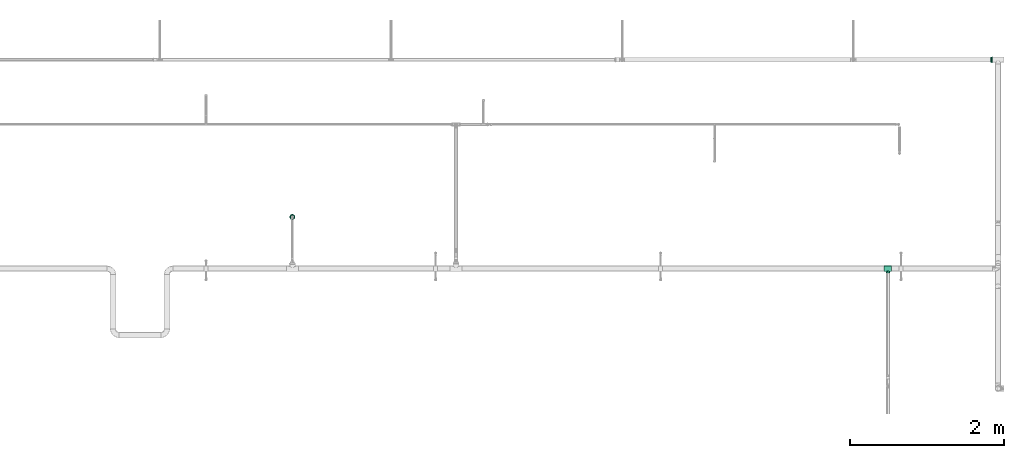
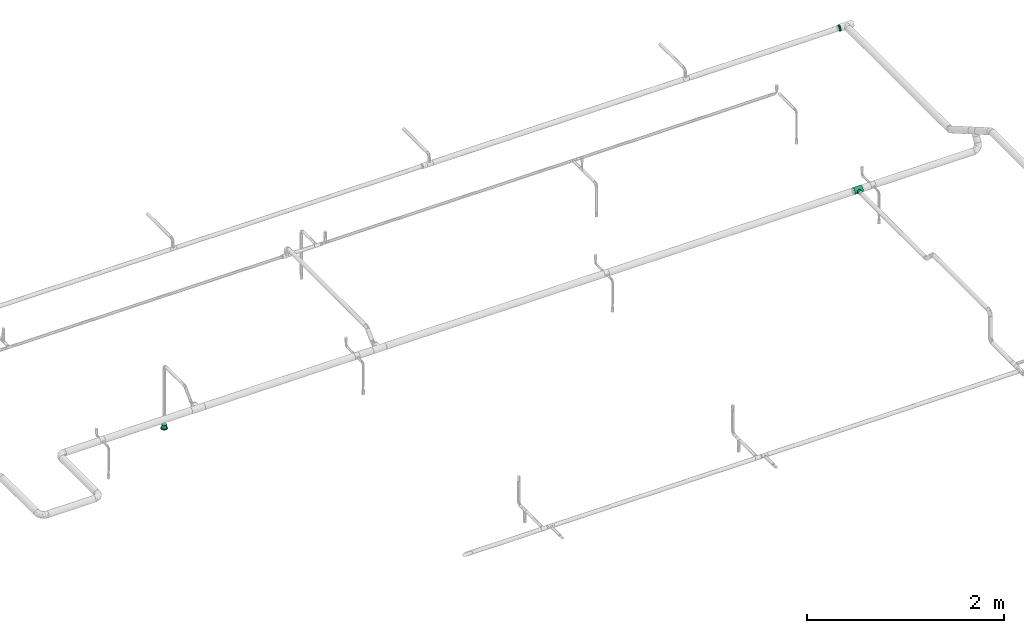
# One storey, part 48 of 51: 2 flow fittings, 1 flow terminal.
"""IFC2X3 building model written with IfcOpenShell, lengths in millimetres."""

from ifc_helpers import new_model, entity, si_unit, converted_unit, derived_unit, direction, frame, origin_with_axes, place, context, subcontext, project, spatial, open_shell, surface_model, source, transform, mapped, type_object, element, save


model = new_model("IFC2X3")

# Units and contexts
model_context = context("Model", 3, precision=0.01, world=frame((0.0, 4.29681676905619e-09, 0.0)), true_north=direction((4.01073788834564e-13, 1.0)))
plan_context = context("Plan", 3, precision=0.01, world=frame((0.0, 4.29681676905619e-09, 0.0)), true_north=direction((4.01073788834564e-13, 1.0)))
body_context = subcontext(model_context, "Body", "Model", "MODEL_VIEW")
ifc_project = project(units=[converted_unit("PLANEANGLEUNIT", "DEGREE", entity("IfcPositiveLengthMeasure", 0.0174532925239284), si_unit("PLANEANGLEUNIT", "RADIAN"), dimensions=[0, 0, 0, 0, 0, 0, 0]), si_unit("AREAUNIT", "SQUARE_METRE"), si_unit("LENGTHUNIT", "METRE", prefix="MILLI"), si_unit("MASSUNIT", "GRAM", prefix="KILO"), si_unit("POWERUNIT", "WATT"), si_unit("PRESSUREUNIT", "PASCAL"), si_unit("FORCEUNIT", "NEWTON", prefix="KILO"), si_unit("ELECTRICVOLTAGEUNIT", "VOLT"), si_unit("ELECTRICCURRENTUNIT", "AMPERE"), si_unit("THERMODYNAMICTEMPERATUREUNIT", "DEGREE_CELSIUS"), si_unit("TIMEUNIT", "SECOND"), si_unit("VOLUMEUNIT", "CUBIC_METRE"), derived_unit("LINEARVELOCITYUNIT", [(si_unit("LENGTHUNIT", "METRE"), 1), (si_unit("TIMEUNIT", "SECOND"), -1)]), derived_unit("VOLUMETRICFLOWRATEUNIT", [(si_unit("VOLUMEUNIT", "CUBIC_METRE"), 1), (si_unit("TIMEUNIT", "SECOND"), -1)]), derived_unit("THERMALTRANSMITTANCEUNIT", [(si_unit("POWERUNIT", "WATT"), 1), (si_unit("THERMODYNAMICTEMPERATUREUNIT", "KELVIN"), -1), (si_unit("AREAUNIT", "SQUARE_METRE"), -1)]), derived_unit("SOUNDPRESSUREUNIT", [(si_unit("PRESSUREUNIT", "PASCAL"), 1)])], contexts=[model_context, plan_context])

# Site, building, storey
site_placement = place(None, frame((0.0, -4.29681676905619e-09, 0.0), z_axis=(0.0, 0.0, 1.0), x_axis=(1.0, 0.0, 0.0)))
site = spatial("IfcSite", under=ifc_project, at=site_placement, Name="ENGM", CompositionType="ELEMENT")
building_placement = place(site_placement, frame((0.0, 4.29681676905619e-09, 0.0), z_axis=(0.0, 0.0, 1.0), x_axis=(1.0, 0.0, 0.0)))
building = spatial("IfcBuilding", under=site, at=building_placement, Name="TH", CompositionType="ELEMENT")
storey_placement = place(building_placement, frame((0.0, 0.0, 210200.0), z_axis=(0.0, 0.0, 1.0), x_axis=(1.0, 0.0, 0.0)))
storey = spatial("IfcBuildingStorey", under=building, at=storey_placement, Name="Nivå F - 0,7 m", CompositionType="ELEMENT", Elevation=210200.0)

# Flow fittings
pipe_fitting_type_1 = type_object("IfcPipeFittingType", Name="magi_pipe_fe_reducer_centric_short_NOR", PredefinedType="TRANSITION")
shared_shape_1 = source(origin_with_axes(), body_context, "Body", "SurfaceModel", [
    surface_model("IfcShellBasedSurfaceModel", [(17.8, 7.81634, -29.17096), (17.8, 15.1, -26.15397), (17.8, 21.35462, -21.35462), (17.8, 30.2, 0.0), (17.8, 26.15397, -15.1), (17.8, 29.17096, -7.81634), (17.8, -15.1, -26.15397), (17.8, -29.17096, 7.81634), (17.8, 0.0, -30.2), (17.8, -7.81634, -29.17096), (17.8, -21.35462, -21.35462), (17.8, -29.17096, -7.81634), (17.8, -26.15397, -15.1), (17.8, 29.17096, 7.81634), (17.8, 26.15397, 15.1), (17.8, 21.35462, 21.35462), (17.8, -21.35462, 21.35462), (17.8, 15.1, 26.15397), (17.8, 7.81634, 29.17096), (17.8, 0.0, 30.2), (17.8, -26.15397, 15.1), (17.8, -30.2, 0.0), (17.8, -7.81634, 29.17096), (17.8, -15.1, 26.15397), (15.8, 0.0, 30.2), (15.8, 7.81634, 29.17096), (15.8, 15.1, 26.15397), (15.8, 21.35462, 21.35462), (15.8, 26.15397, 15.1), (15.8, 29.17096, 7.81634), (15.8, -29.17096, 7.81634), (15.8, 30.2, 0.0), (15.8, -7.81634, 29.17096), (15.8, -21.35462, 21.35462), (15.8, -15.1, 26.15397), (15.8, -26.15397, 15.1), (15.8, -30.2, 0.0), (15.8, 29.17096, -7.81634), (15.8, 26.15397, -15.1), (15.8, 21.35462, -21.35462), (15.8, 15.1, -26.15397), (15.8, 7.81634, -29.17096), (15.8, -15.1, -26.15397), (15.8, -29.17096, -7.81634), (15.8, -21.35462, -21.35462), (15.8, -26.15397, -15.1), (15.8, 0.0, -30.2), (15.8, -7.81634, -29.17096), (-2.0, 9.86101, 36.80177), (-2.0, -38.1, 0.0), (-2.0, 0.0, 38.1), (-2.0, 26.94077, 26.94077), (-2.0, 19.05, 32.99557), (-2.0, 32.99557, 19.05), (-2.0, 36.80177, 9.86101), (-2.0, -9.86101, 36.80177), (-2.0, -26.94077, 26.94077), (-2.0, -19.05, 32.99557), (-2.0, -32.99557, 19.05), (-2.0, -36.80177, 9.86101), (-2.0, 36.80177, -9.86101), (-2.0, -32.99557, -19.05), (-2.0, 9.86101, -36.80177), (-2.0, 32.99557, -19.05), (-2.0, 26.94077, -26.94077), (-2.0, 19.05, -32.99557), (-2.0, -26.94077, -26.94077), (-2.0, -36.80177, -9.86101), (-2.0, -19.05, -32.99557), (-2.0, 0.0, -38.1), (-2.0, -9.86101, -36.80177), (-2.0, 38.1, 0.0), (0.0, 9.86101, -36.80177), (0.0, 19.05, -32.99557), (0.0, 26.94077, -26.94077), (0.0, 36.80177, -9.86101), (0.0, -26.94077, -26.94077), (0.0, 32.99557, -19.05), (0.0, -38.1, 0.0), (0.0, 0.0, -38.1), (0.0, -19.05, -32.99557), (0.0, -9.86101, -36.80177), (0.0, -32.99557, -19.05), (0.0, -36.80177, -9.86101), (0.0, 38.1, 0.0), (0.0, 36.80177, 9.86101), (0.0, 32.99557, 19.05), (0.0, 26.94077, 26.94077), (0.0, 0.0, 38.1), (0.0, 9.86101, 36.80177), (0.0, 19.05, 32.99557), (0.0, -9.86101, 36.80177), (0.0, -32.99557, 19.05), (0.0, -36.80177, 9.86101), (0.0, -26.94077, 26.94077), (0.0, -19.05, 32.99557), (15.8, -9.33231, 28.72191), (15.8, -24.43231, 17.75111), (15.8, 9.33231, 28.72191), (15.8, 24.43231, 17.75111), (15.8, -9.33231, -28.72191), (15.8, -24.43231, -17.75111), (15.8, 9.33231, -28.72191), (15.8, 24.43231, -17.75111), (15.8, 27.31616, -8.87556), (15.8, 16.88231, -23.23651), (0.0, 35.64327, -9.16863), (0.0, 26.02278, -26.02278), (0.0, -35.64327, -9.16863), (15.8, -16.88231, -23.23651), (15.8, -27.31616, -8.87556), (0.0, -26.02278, -26.02278), (15.8, 0.0, -28.72191), (0.0, 9.525, -35.54778), (0.0, -9.525, -35.54778), (15.8, -27.31616, 8.87556), (15.8, -16.88231, 23.23651), (0.0, -35.64327, 9.16863), (0.0, -26.02278, 26.02278), (0.0, 35.64327, 9.16863), (15.8, 16.88231, 23.23651), (15.8, 27.31616, 8.87556), (0.0, 26.02278, 26.02278), (15.8, 0.0, 28.72191), (0.0, -9.525, 35.54778), (0.0, 9.525, 35.54778)], [open_shell([[[0, 1, 2]], [[0, 2, 3]], [[4, 5, 3]], [[4, 3, 2]], [[6, 0, 7]], [[8, 6, 9]], [[8, 0, 6]], [[10, 11, 12]], [[11, 10, 6]], [[6, 7, 11]], [[7, 0, 3]], [[13, 14, 15]], [[3, 15, 16]], [[17, 18, 19]], [[16, 15, 17]], [[16, 17, 19]], [[7, 16, 20]], [[21, 11, 7]], [[16, 22, 23]], [[7, 3, 16]], [[22, 16, 19]], [[13, 15, 3]], [[24, 25, 26]], [[24, 26, 27]], [[27, 28, 29]], [[24, 27, 30]], [[31, 30, 27]], [[32, 33, 34]], [[32, 24, 33]], [[33, 30, 35]], [[24, 30, 33]], [[30, 31, 36]], [[31, 27, 29]], [[31, 37, 38]], [[31, 38, 39]], [[39, 40, 41]], [[39, 41, 31]], [[41, 42, 36]], [[43, 44, 45]], [[44, 43, 42]], [[42, 46, 47]], [[43, 36, 42]], [[41, 46, 42]], [[36, 31, 41]], [[43, 11, 36]], [[45, 12, 43]], [[6, 44, 42]], [[45, 44, 10]], [[9, 42, 47]], [[43, 12, 11]], [[11, 21, 36]], [[9, 6, 42]], [[10, 44, 6]], [[10, 12, 45]], [[8, 9, 47]], [[47, 46, 8]], [[41, 0, 46]], [[40, 1, 41]], [[4, 39, 38]], [[40, 39, 2]], [[5, 38, 37]], [[40, 2, 1]], [[1, 0, 41]], [[3, 5, 37]], [[4, 38, 5]], [[4, 2, 39]], [[31, 3, 37]], [[46, 0, 8]], [[29, 13, 31]], [[28, 14, 29]], [[17, 27, 26]], [[28, 27, 15]], [[18, 26, 25]], [[29, 14, 13]], [[13, 3, 31]], [[18, 17, 26]], [[15, 27, 17]], [[15, 14, 28]], [[19, 18, 25]], [[25, 24, 19]], [[32, 22, 24]], [[34, 23, 32]], [[20, 33, 35]], [[34, 33, 16]], [[7, 35, 30]], [[34, 16, 23]], [[23, 22, 32]], [[21, 7, 30]], [[20, 35, 7]], [[20, 16, 33]], [[36, 21, 30]], [[24, 22, 19]], [[48, 49, 50]], [[51, 48, 52]], [[51, 53, 54]], [[51, 54, 48]], [[49, 48, 54]], [[55, 56, 57]], [[56, 55, 58]], [[58, 49, 59]], [[49, 58, 55]], [[55, 50, 49]], [[54, 60, 49]], [[61, 49, 60]], [[62, 60, 63]], [[64, 65, 62]], [[64, 62, 63]], [[61, 60, 62]], [[62, 66, 61]], [[67, 49, 61]], [[68, 69, 70]], [[68, 66, 62]], [[68, 62, 69]], [[54, 71, 60]], [[72, 73, 74]], [[72, 74, 75]], [[72, 75, 76]], [[75, 74, 77]], [[76, 75, 78]], [[79, 80, 81]], [[79, 72, 80]], [[76, 80, 72]], [[76, 78, 82]], [[82, 78, 83]], [[75, 84, 85]], [[85, 86, 87]], [[85, 87, 88]], [[89, 88, 87]], [[89, 87, 90]], [[85, 88, 91]], [[78, 92, 93]], [[92, 78, 91]], [[94, 91, 95]], [[91, 94, 92]], [[78, 85, 91]], [[85, 78, 75]], [[67, 83, 49]], [[61, 82, 67]], [[80, 66, 68]], [[61, 66, 76]], [[81, 68, 70]], [[67, 82, 83]], [[83, 78, 49]], [[81, 80, 68]], [[76, 66, 80]], [[76, 82, 61]], [[79, 81, 70]], [[70, 69, 79]], [[62, 72, 69]], [[65, 73, 62]], [[77, 64, 63]], [[65, 64, 74]], [[75, 63, 60]], [[65, 74, 73]], [[73, 72, 62]], [[84, 75, 60]], [[77, 63, 75]], [[77, 74, 64]], [[71, 84, 60]], [[69, 72, 79]], [[54, 85, 71]], [[53, 86, 54]], [[90, 51, 52]], [[53, 51, 87]], [[89, 52, 48]], [[54, 86, 85]], [[85, 84, 71]], [[89, 90, 52]], [[87, 51, 90]], [[87, 86, 53]], [[88, 89, 48]], [[48, 50, 88]], [[55, 91, 50]], [[57, 95, 55]], [[92, 56, 58]], [[57, 56, 94]], [[93, 58, 59]], [[57, 94, 95]], [[95, 91, 55]], [[78, 93, 59]], [[92, 58, 93]], [[92, 94, 56]], [[49, 78, 59]], [[50, 91, 88]], [[96, 97, 98]], [[98, 31, 99]], [[31, 98, 97]], [[97, 100, 31]], [[100, 97, 101]], [[102, 103, 31]], [[31, 100, 102]], [[97, 36, 101]], [[88, 90, 86]], [[88, 86, 92]], [[88, 92, 95]], [[92, 86, 78]], [[86, 73, 78]], [[77, 73, 86]], [[73, 79, 78]], [[78, 80, 82]], [[78, 79, 80]], [[84, 77, 86]], [[77, 104, 103]], [[105, 102, 73]], [[31, 106, 84]], [[107, 103, 105]], [[36, 78, 108]], [[106, 31, 104]], [[80, 100, 109]], [[105, 73, 107]], [[77, 103, 107]], [[77, 106, 104]], [[82, 110, 108]], [[108, 110, 36]], [[101, 82, 111]], [[112, 113, 102]], [[100, 80, 114]], [[113, 112, 79]], [[109, 101, 111]], [[101, 110, 82]], [[80, 109, 111]], [[100, 114, 112]], [[112, 114, 79]], [[113, 73, 102]], [[92, 115, 97]], [[116, 96, 95]], [[36, 117, 78]], [[118, 97, 116]], [[31, 84, 119]], [[117, 36, 115]], [[90, 98, 120]], [[116, 95, 118]], [[92, 97, 118]], [[92, 117, 115]], [[86, 121, 119]], [[119, 121, 31]], [[99, 86, 122]], [[123, 124, 96]], [[98, 90, 125]], [[124, 123, 88]], [[120, 99, 122]], [[99, 121, 86]], [[90, 120, 122]], [[98, 125, 123]], [[123, 125, 88]], [[124, 95, 96]]])]),
])
flow_fitting_1_placement = place(storey_placement, frame((910303.67531, 487040.10129, 2819.99997), z_axis=(0.0, 0.0, 1.0), x_axis=(-1.0, 0.0, 0.0)))
element("IfcFlowFitting", 1, at=flow_fitting_1_placement, inside=storey, type_object=pipe_fitting_type_1, Name="magi_pipe_fe_reducer_centric_short_NOR", context=body_context, shape_type="MappedRepresentation", body=[
    mapped(shared_shape_1, transform((0.0, 0.0, 0.0), scale=1.0)),
])
pipe_fitting_type_2 = type_object("IfcPipeFittingType", Name="magi_pipe_fe_tee_centric_90_NOR", PredefinedType="JUNCTION")
shared_shape_2 = source(origin_with_axes(), body_context, "Body", "SurfaceModel", [
    surface_model("IfcShellBasedSurfaceModel", [(-48.4, 9.86101, -36.80177), (-48.4, 0.0, -38.1), (-48.4, 36.80177, -9.86101), (-48.4, 19.05, -32.99557), (-48.4, 32.99557, -19.05), (-48.4, 26.94077, -26.94077), (-48.4, -38.1, 0.0), (-48.4, -19.05, -32.99557), (-48.4, -26.94077, -26.94077), (-48.4, -9.86101, -36.80177), (-48.4, -32.99557, -19.05), (-48.4, -36.80177, -9.86101), (-48.4, 38.1, 0.0), (-48.4, 32.99557, 19.05), (-48.4, 36.80177, 9.86101), (-48.4, -36.80177, 9.86101), (-48.4, 19.05, 32.99557), (-48.4, 26.94077, 26.94077), (-48.4, 9.86101, 36.80177), (-48.4, 0.0, 38.1), (-48.4, -26.94077, 26.94077), (-48.4, -32.99557, 19.05), (-48.4, -9.86101, 36.80177), (-48.4, -19.05, 32.99557), (48.4, 0.0, -38.1), (48.4, 9.86101, -36.80177), (48.4, 19.05, -32.99557), (48.4, 26.94077, -26.94077), (48.4, 32.99557, -19.05), (48.4, 36.80177, -9.86101), (48.4, -26.94077, -26.94077), (48.4, -38.1, 0.0), (48.4, -9.86101, -36.80177), (48.4, -19.05, -32.99557), (48.4, -32.99557, -19.05), (48.4, -36.80177, -9.86101), (48.4, 36.80177, 9.86101), (48.4, 32.99557, 19.05), (48.4, 19.05, 32.99557), (48.4, 0.0, 38.1), (48.4, 26.94077, 26.94077), (48.4, 9.86101, 36.80177), (48.4, -32.99557, 19.05), (48.4, -26.94077, 26.94077), (48.4, -36.80177, 9.86101), (48.4, -19.05, 32.99557), (48.4, -9.86101, 36.80177), (48.4, 38.1, 0.0), (22.67163, -37.14799, 8.46387), (24.2, -38.1, 0.0), (18.4612, -34.73882, 15.64686), (12.20123, -31.85656, 20.89904), (4.31503, -29.74205, 23.81219), (48.4, -34.89867, 14.4555), (-18.46661, -34.7417, 15.64047), (-48.4, -34.89867, 14.4555), (-24.2, -38.1, 0.0), (-22.67247, -37.1485, 8.46164), (-12.20341, -31.85739, 20.89777), (-4.32227, -29.7431, 23.81088), (12.20123, -31.85656, -20.89904), (-18.46661, -34.7417, -15.64047), (-48.4, -34.89867, -14.4555), (4.31503, -29.74205, -23.81219), (18.4612, -34.73882, -15.64686), (22.67163, -37.14799, -8.46387), (48.4, -34.89867, -14.4555), (-4.32227, -29.7431, -23.81088), (-12.20341, -31.85739, -20.89777), (-22.67247, -37.1485, -8.46164), (0.0, -57.15, -24.2), (6.26342, -57.15, -23.37541), (12.1, -57.15, -20.95781), (12.1, -57.15, 20.95781), (17.11198, -57.15, -17.11198), (20.95781, -57.15, -12.1), (23.37541, -57.15, -6.26342), (-12.1, -57.15, -20.95781), (-20.95781, -57.15, -12.1), (-17.11198, -57.15, -17.11198), (-6.26342, -57.15, -23.37541), (-23.37541, -57.15, -6.26342), (-24.2, -57.15, 0.0), (24.2, -57.15, 0.0), (23.37541, -57.15, 6.26342), (20.95781, -57.15, 12.1), (-23.37541, -57.15, 6.26342), (17.11198, -57.15, 17.11198), (6.26342, -57.15, 23.37541), (-17.11198, -57.15, 17.11198), (-20.95781, -57.15, 12.1), (-12.1, -57.15, 20.95781), (0.0, -57.15, 24.2), (-6.26342, -57.15, 23.37541), (-23.43623, -37.62425, 4.23082), (-0.00362, -29.74257, 23.81153), (8.25813, -30.7993, 22.35562), (23.43582, -37.62399, 4.23193), (23.43582, -37.62399, -4.23193), (-23.43623, -37.62425, -4.23082), (8.25813, -30.7993, -22.35562), (-0.00362, -29.74257, -23.81153)], [open_shell([[[0, 1, 2]], [[3, 0, 2]], [[2, 4, 5]], [[3, 2, 5]], [[6, 2, 1]], [[7, 8, 9]], [[8, 1, 9]], [[10, 11, 8]], [[6, 8, 11]], [[8, 6, 1]], [[6, 12, 2]], [[13, 14, 12]], [[13, 12, 15]], [[16, 13, 15]], [[17, 13, 16]], [[18, 16, 19]], [[20, 19, 21]], [[16, 15, 21]], [[22, 19, 23]], [[20, 23, 19]], [[21, 19, 16]], [[6, 15, 12]], [[24, 25, 26]], [[24, 26, 27]], [[27, 28, 29]], [[24, 27, 30]], [[31, 27, 29]], [[32, 30, 33]], [[32, 24, 30]], [[34, 31, 35]], [[31, 34, 30]], [[27, 31, 30]], [[29, 36, 31]], [[36, 37, 31]], [[31, 37, 38]], [[38, 39, 31]], [[38, 37, 40]], [[39, 38, 41]], [[42, 39, 43]], [[44, 31, 42]], [[45, 39, 46]], [[39, 45, 43]], [[39, 42, 31]], [[36, 29, 47]], [[31, 44, 48]], [[48, 49, 31]], [[44, 50, 48]], [[42, 43, 51]], [[51, 50, 42]], [[52, 51, 43]], [[43, 20, 52]], [[42, 50, 53]], [[54, 21, 55]], [[56, 57, 6]], [[15, 6, 57]], [[57, 54, 15]], [[58, 59, 20]], [[58, 21, 54]], [[21, 58, 20]], [[54, 55, 15]], [[59, 52, 20]], [[50, 44, 53]], [[43, 23, 20]], [[19, 46, 39]], [[22, 45, 46]], [[18, 39, 41]], [[37, 36, 14]], [[17, 38, 40]], [[13, 40, 37]], [[41, 38, 16]], [[12, 36, 47]], [[23, 45, 22]], [[22, 46, 19]], [[18, 19, 39]], [[41, 16, 18]], [[16, 38, 17]], [[13, 17, 40]], [[14, 13, 37]], [[36, 12, 14]], [[45, 23, 43]], [[12, 47, 29]], [[28, 27, 4]], [[2, 29, 28]], [[24, 32, 9]], [[0, 26, 25]], [[1, 25, 24]], [[26, 3, 27]], [[7, 32, 33]], [[4, 27, 5]], [[12, 29, 2]], [[2, 28, 4]], [[5, 27, 3]], [[26, 0, 3]], [[1, 0, 25]], [[9, 1, 24]], [[32, 7, 9]], [[33, 8, 7]], [[30, 34, 60]], [[61, 11, 62]], [[60, 63, 30]], [[34, 64, 60]], [[30, 63, 8]], [[35, 31, 65]], [[65, 64, 35]], [[49, 65, 31]], [[35, 64, 66]], [[67, 68, 8]], [[64, 34, 66]], [[10, 8, 68]], [[68, 61, 10]], [[67, 8, 63]], [[61, 69, 11]], [[69, 6, 11]], [[6, 69, 56]], [[61, 62, 10]], [[30, 8, 33]], [[70, 71, 72]], [[73, 70, 72]], [[74, 75, 76]], [[74, 76, 72]], [[73, 77, 70]], [[77, 78, 79]], [[77, 80, 70]], [[77, 81, 78]], [[81, 77, 82]], [[77, 73, 82]], [[83, 72, 76]], [[83, 84, 85]], [[83, 85, 73]], [[73, 86, 82]], [[73, 85, 87]], [[86, 73, 88]], [[86, 89, 90]], [[86, 88, 89]], [[91, 92, 93]], [[92, 91, 89]], [[88, 92, 89]], [[73, 72, 83]], [[86, 94, 82]], [[54, 90, 89]], [[86, 90, 57]], [[89, 91, 58]], [[94, 56, 82]], [[57, 90, 54]], [[58, 93, 59]], [[58, 54, 89]], [[92, 52, 95]], [[58, 91, 93]], [[73, 96, 88]], [[97, 83, 49]], [[86, 57, 94]], [[88, 52, 92]], [[48, 85, 84]], [[97, 48, 84]], [[85, 50, 87]], [[92, 59, 93]], [[96, 52, 88]], [[73, 51, 96]], [[73, 87, 51]], [[51, 87, 50]], [[50, 85, 48]], [[83, 97, 84]], [[95, 59, 92]], [[76, 98, 83]], [[64, 75, 74]], [[99, 69, 81]], [[76, 75, 65]], [[74, 72, 60]], [[98, 49, 83]], [[65, 75, 64]], [[71, 63, 100]], [[60, 64, 74]], [[70, 67, 101]], [[70, 63, 71]], [[100, 60, 72]], [[100, 72, 71]], [[76, 65, 98]], [[68, 77, 79]], [[68, 80, 77]], [[69, 78, 81]], [[79, 78, 61]], [[99, 82, 56]], [[67, 70, 80]], [[80, 68, 67]], [[101, 63, 70]], [[68, 79, 61]], [[61, 78, 69]], [[82, 99, 81]]])]),
])
flow_fitting_2_placement = place(storey_placement, frame((908949.82472, 484329.45519, 2933.0), z_axis=(0.0, 0.0, -1.0), x_axis=(-1.0, 0.0, 0.0)))
element("IfcFlowFitting", 2, at=flow_fitting_2_placement, inside=storey, type_object=pipe_fitting_type_2, Name="magi_pipe_fe_tee_centric_90_NOR", context=body_context, shape_type="MappedRepresentation", body=[
    mapped(shared_shape_2, transform((0.0, 0.0, 0.0), scale=1.0)),
])

# Flow terminal
fire_suppression_terminal_type = type_object("IfcFireSuppressionTerminalType", Name="CC-15-K80-68DGR-STD-SKJULT I HIMLING", PredefinedType="NOTDEFINED")
shared_shape_3 = source(origin_with_axes(), body_context, "Body", "SurfaceModel", [
    surface_model("IfcShellBasedSurfaceModel", [(-26.0, 0.0, -46.0), (-25.11407, -6.72929, -46.0), (-25.11407, -6.72929, 0.0), (6.72929, -25.11407, 0.0), (6.72929, -25.11407, -46.0), (13.0, -22.51666, -46.0), (22.51666, -13.0, -46.0), (22.51666, -13.0, 0.0), (18.38478, -18.38478, 0.0), (25.11407, -6.72929, 0.0), (25.11407, -6.72929, -46.0), (26.0, 0.0, -46.0), (26.0, 0.0, 0.0), (25.11407, 6.72929, -46.0), (22.51666, 13.0, 0.0), (25.11407, 6.72929, 0.0), (13.0, 22.51666, -46.0), (6.72929, 25.11407, -46.0), (6.72929, 25.11407, 0.0), (18.38478, 18.38478, 0.0), (22.51666, 13.0, -46.0), (-25.11407, 6.72929, 0.0), (-25.11407, 6.72929, -46.0), (-26.16295, -26.16295, 5.0), (35.73926, -9.57631, 5.0), (37.0, 0.0, 5.0), (13.0, 22.51666, 0.0), (-26.0, 0.0, 0.0), (-13.0, 22.51666, 0.0), (-6.72929, 25.11407, 0.0), (0.0, 26.0, 0.0), (-22.51666, 13.0, 0.0), (-18.38478, 18.38478, 0.0), (13.0, -22.51666, 0.0), (0.0, -26.0, 0.0), (-22.51666, -13.0, 0.0), (-18.38478, -18.38478, 0.0), (-13.0, -22.51666, 0.0), (-6.72929, -25.11407, 0.0), (0.0, -26.0, -46.0), (18.38478, -18.38478, -46.0), (-18.38478, -18.38478, -46.0), (-13.0, -22.51666, -46.0), (-6.72929, -25.11407, -46.0), (-22.51666, -13.0, -46.0), (18.38478, 18.38478, -46.0), (-22.51666, 13.0, -46.0), (-18.38478, 18.38478, -46.0), (-13.0, 22.51666, -46.0), (-6.72929, 25.11407, -46.0), (0.0, 26.0, -46.0), (18.5, 32.04294, 5.0), (9.57631, 35.73926, 5.0), (35.73926, 9.57631, 5.0), (26.16295, 26.16295, 5.0), (32.04294, 18.5, 5.0), (-35.73926, -9.57631, 5.0), (-18.5, 32.04294, 5.0), (-9.57631, 35.73926, 5.0), (0.0, 37.0, 5.0), (-32.04294, 18.5, 5.0), (-35.73926, 9.57631, 5.0), (-26.16295, 26.16295, 5.0), (-37.0, 0.0, 5.0), (32.04294, -18.5, 5.0), (0.0, -37.0, 5.0), (26.16295, -26.16295, 5.0), (18.5, -32.04294, 5.0), (9.57631, -35.73926, 5.0), (-9.57631, -35.73926, 5.0), (-32.04294, -18.5, 5.0), (-18.5, -32.04294, 5.0), (18.5, -32.04294, 0.0), (9.57631, -35.73926, 0.0), (0.0, -37.0, 0.0), (32.04294, -18.5, 0.0), (-26.16295, -26.16295, 0.0), (26.16295, -26.16295, 0.0), (-35.73926, 9.57631, 0.0), (-18.5, -32.04294, 0.0), (-9.57631, -35.73926, 0.0), (-32.04294, -18.5, 0.0), (-35.73926, -9.57631, 0.0), (-37.0, 0.0, 0.0), (35.73926, -9.57631, 0.0), (35.73926, 9.57631, 0.0), (32.04294, 18.5, 0.0), (18.5, 32.04294, 0.0), (9.57631, 35.73926, 0.0), (26.16295, 26.16295, 0.0), (-32.04294, 18.5, 0.0), (-26.16295, 26.16295, 0.0), (-9.57631, 35.73926, 0.0), (0.0, 37.0, 0.0), (-18.5, 32.04294, 0.0), (37.0, 0.0, 0.0)], [open_shell([[[0, 1, 2]], [[3, 4, 5]], [[6, 7, 8]], [[9, 7, 10]], [[11, 12, 9]], [[13, 14, 15]], [[15, 12, 11]], [[16, 17, 18]], [[19, 14, 20]], [[21, 22, 0]], [[23, 24, 25]], [[19, 26, 18]], [[19, 18, 21]], [[27, 15, 19]], [[14, 19, 15]], [[19, 21, 27]], [[28, 21, 29]], [[18, 30, 29]], [[31, 21, 32]], [[28, 32, 21]], [[29, 21, 18]], [[12, 15, 27]], [[8, 7, 9]], [[33, 8, 9]], [[34, 3, 33]], [[9, 34, 33]], [[27, 34, 9]], [[2, 35, 27]], [[36, 27, 35]], [[37, 38, 36]], [[34, 27, 36]], [[36, 38, 34]], [[12, 27, 9]], [[5, 4, 39]], [[5, 39, 22]], [[10, 6, 40]], [[5, 10, 40]], [[39, 41, 22]], [[42, 41, 43]], [[41, 39, 43]], [[1, 0, 44]], [[44, 0, 22]], [[22, 41, 44]], [[10, 5, 22]], [[45, 13, 10]], [[20, 13, 45]], [[17, 16, 45]], [[10, 22, 45]], [[45, 22, 17]], [[46, 47, 22]], [[48, 22, 47]], [[48, 49, 22]], [[49, 17, 22]], [[49, 50, 17]], [[11, 10, 13]], [[46, 22, 21]], [[46, 31, 47]], [[49, 48, 28]], [[32, 48, 47]], [[50, 49, 29]], [[21, 0, 27]], [[21, 31, 46]], [[31, 32, 47]], [[48, 32, 28]], [[28, 29, 49]], [[29, 30, 50]], [[16, 26, 45]], [[13, 20, 14]], [[19, 20, 45]], [[11, 13, 15]], [[30, 18, 17]], [[18, 26, 16]], [[26, 19, 45]], [[50, 30, 17]], [[11, 9, 10]], [[10, 7, 6]], [[3, 39, 4]], [[6, 8, 40]], [[3, 5, 33]], [[8, 33, 5]], [[5, 40, 8]], [[3, 34, 39]], [[42, 43, 38]], [[42, 37, 41]], [[1, 44, 35]], [[36, 44, 41]], [[34, 38, 43]], [[38, 37, 42]], [[37, 36, 41]], [[36, 35, 44]], [[1, 35, 2]], [[2, 27, 0]], [[39, 34, 43]], [[51, 52, 53]], [[54, 51, 55]], [[56, 52, 57]], [[55, 51, 53]], [[52, 56, 53]], [[58, 57, 59]], [[57, 52, 59]], [[60, 61, 62]], [[57, 62, 63]], [[62, 61, 63]], [[53, 23, 25]], [[64, 24, 65]], [[66, 64, 67]], [[65, 68, 67]], [[64, 65, 67]], [[69, 65, 24]], [[70, 23, 56]], [[56, 57, 63]], [[71, 69, 23]], [[23, 53, 56]], [[24, 23, 69]], [[72, 73, 74]], [[75, 72, 74]], [[76, 75, 74]], [[77, 72, 75]], [[75, 76, 78]], [[79, 76, 80]], [[76, 74, 80]], [[81, 82, 76]], [[82, 78, 76]], [[83, 78, 82]], [[75, 78, 84]], [[85, 84, 78]], [[86, 85, 87]], [[85, 88, 87]], [[89, 86, 87]], [[88, 85, 78]], [[90, 91, 78]], [[91, 88, 78]], [[92, 93, 94]], [[88, 91, 94]], [[88, 94, 93]], [[95, 84, 85]], [[83, 61, 78]], [[78, 60, 90]], [[94, 91, 57]], [[62, 91, 90]], [[92, 94, 58]], [[61, 60, 78]], [[83, 63, 61]], [[94, 57, 58]], [[57, 91, 62]], [[90, 60, 62]], [[92, 58, 59]], [[59, 93, 92]], [[93, 52, 88]], [[88, 51, 87]], [[86, 89, 55]], [[54, 89, 87]], [[85, 86, 53]], [[51, 54, 87]], [[88, 52, 51]], [[85, 53, 25]], [[53, 86, 55]], [[89, 54, 55]], [[85, 25, 95]], [[59, 52, 93]], [[95, 24, 84]], [[84, 64, 75]], [[72, 77, 67]], [[66, 77, 75]], [[73, 72, 68]], [[24, 64, 84]], [[95, 25, 24]], [[72, 67, 68]], [[67, 77, 66]], [[75, 64, 66]], [[73, 68, 65]], [[65, 74, 73]], [[74, 69, 80]], [[80, 71, 79]], [[81, 76, 70]], [[23, 76, 79]], [[82, 81, 56]], [[71, 23, 79]], [[80, 69, 71]], [[82, 56, 63]], [[56, 81, 70]], [[76, 23, 70]], [[82, 63, 83]], [[65, 69, 74]]])]),
])
flow_terminal_placement = place(storey_placement, frame((901220.93402, 485000.0, 2286.47730999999), z_axis=(0.0, 0.0, -1.0), x_axis=(1.0, 0.0, 0.0)))
element("IfcFlowTerminal", 3, at=flow_terminal_placement, inside=storey, type_object=fire_suppression_terminal_type, Name="CC-15-K80-68DGR-STD-SKJULT I HIMLING", context=body_context, shape_type="MappedRepresentation", body=[
    mapped(shared_shape_3, transform((0.0, 0.0, 0.0), scale=1.0)),
])

save(model, "model.ifc")
